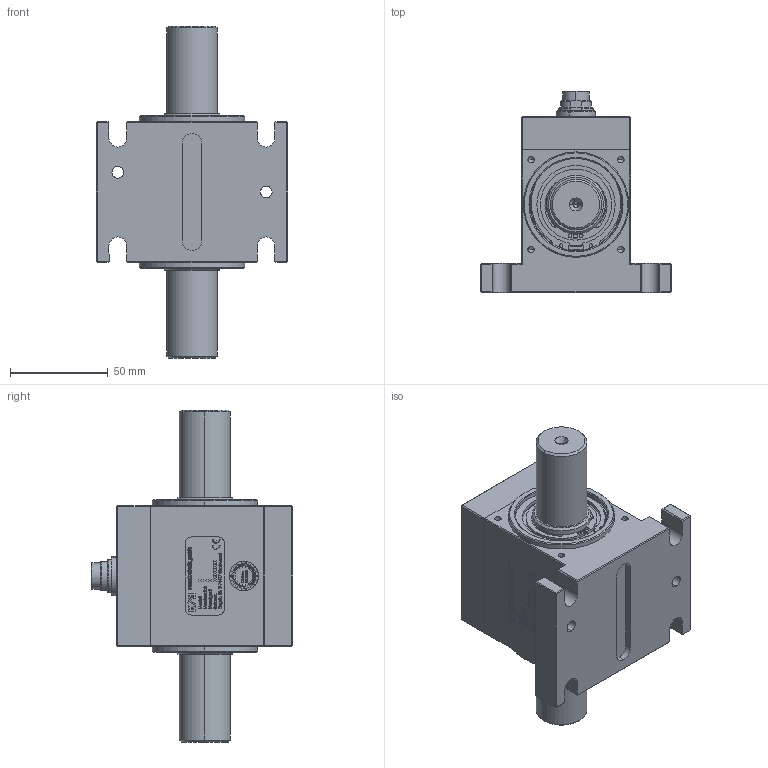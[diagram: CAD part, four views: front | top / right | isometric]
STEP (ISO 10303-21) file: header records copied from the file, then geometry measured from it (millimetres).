
FILE_DESCRIPTION (( 'STEP AP214' ), '1' );
FILE_NAME ('DRVL-III-F.STEP', '2020-08-31T13:41:59', ( '' ), ( '' ), 'SwSTEP 2.0', 'SolidWorks 2020', '' );
FILE_SCHEMA (( 'AUTOMOTIVE_DESIGN' ));
Length unit declared in the file: millimetre
Products named in the file (1): DRVL-III-F
Bounding box: 98 x 103.1 x 170 mm (x, y, z)
Volume: 333034.2 mm3; surface area: 113668.5 mm2
Topology: 26 solids, 66 shells, 3274 faces, 8913 edges, 5839 vertices
Faces by surface type: plane 1483, bspline 924, cylinder 386, sphere 170, torus 162, cone 149
Entity records: 177028 total; most frequent: CARTESIAN_POINT 66280, ORIENTED_EDGE 16958, DIRECTION 12408, EDGE_CURVE 8479, VERTEX_POINT 5599, VECTOR 4796, LINE 4796, AXIS2_PLACEMENT_3D 3806
